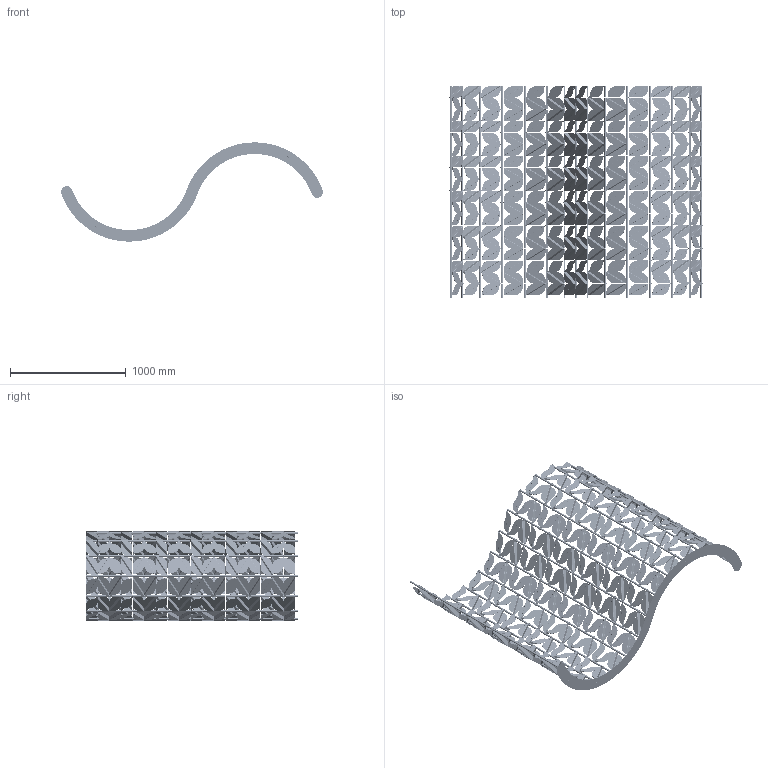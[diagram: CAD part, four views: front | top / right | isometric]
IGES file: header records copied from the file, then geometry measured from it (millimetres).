
Start section: SolidWorks IGES file using analytic representation for surfaces
Global section: file name: \\192.168.0.53\Reserch Development\SITO WEB\2024\File 2D 3D\Prodotti\3D\De Castelli-3D-Bosque.IGS; native system: SolidWorks 2025; preprocessor: SolidWorks 2025; author: lauraa; date: 260403.164514; units: millimetre
Bounding box: 2264.85 x 1836.3 x 857.71 mm (x, y, z)
Surface area: 12629546.8 mm2 (no closed solid volume)
Topology: 0 solids, 0 shells, 6643 faces, 116344 edges, 116344 vertices
Faces by surface type: revolution 3660, bspline 2983
